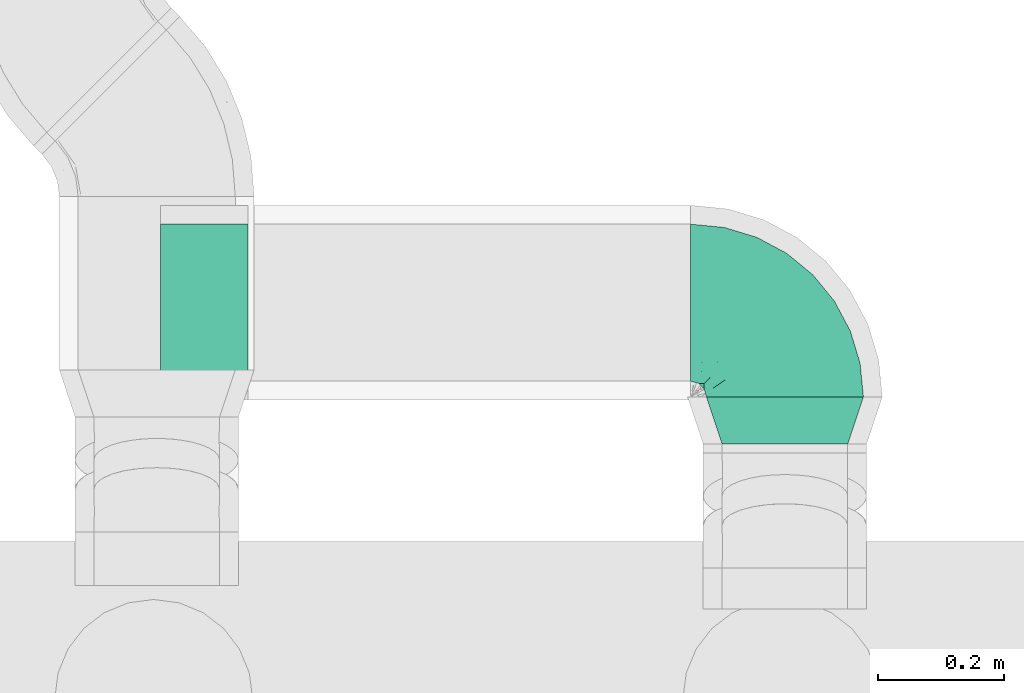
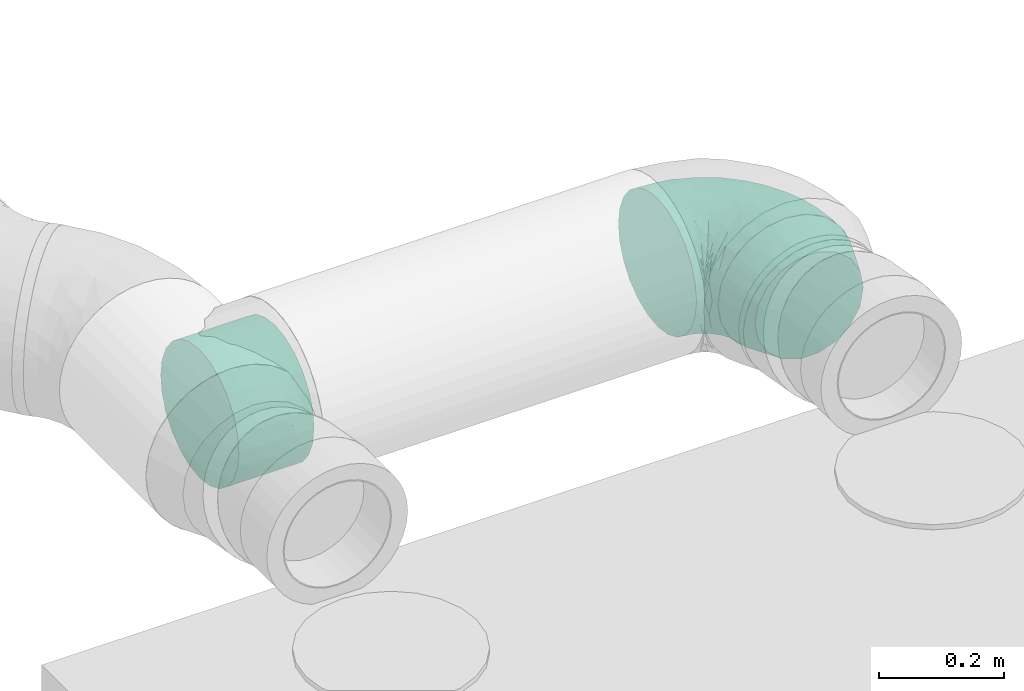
# One storey, part 18 of 21: 3 flow fittings.
"""IFC2X3 building model written with IfcOpenShell, lengths in millimetres."""

from ifc_helpers import new_model, entity, si_unit, converted_unit, derived_unit, direction, frame, origin_with_axes, place, context, subcontext, project, spatial, open_shell, surface_model, source, transform, mapped, type_object, element, save


model = new_model("IFC2X3")

# Units and contexts
model_context = context("Model", 3, precision=0.01, world=frame((0.0, 4.29681676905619e-09, 0.0)), true_north=direction((4.01073788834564e-13, 1.0)))
plan_context = context("Plan", 3, precision=0.01, world=frame((0.0, 4.29681676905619e-09, 0.0)), true_north=direction((4.01073788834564e-13, 1.0)))
body_context = subcontext(model_context, "Body", "Model", "MODEL_VIEW")
ifc_project = project(units=[converted_unit("PLANEANGLEUNIT", "DEGREE", entity("IfcPositiveLengthMeasure", 0.0174532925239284), si_unit("PLANEANGLEUNIT", "RADIAN"), dimensions=[0, 0, 0, 0, 0, 0, 0]), si_unit("AREAUNIT", "SQUARE_METRE"), si_unit("LENGTHUNIT", "METRE", prefix="MILLI"), si_unit("MASSUNIT", "GRAM", prefix="KILO"), si_unit("POWERUNIT", "WATT"), si_unit("PRESSUREUNIT", "PASCAL"), si_unit("FORCEUNIT", "NEWTON", prefix="KILO"), si_unit("ELECTRICVOLTAGEUNIT", "VOLT"), si_unit("ELECTRICCURRENTUNIT", "AMPERE"), si_unit("THERMODYNAMICTEMPERATUREUNIT", "DEGREE_CELSIUS"), si_unit("TIMEUNIT", "SECOND"), si_unit("VOLUMEUNIT", "CUBIC_METRE"), derived_unit("LINEARVELOCITYUNIT", [(si_unit("LENGTHUNIT", "METRE"), 1), (si_unit("TIMEUNIT", "SECOND"), -1)]), derived_unit("VOLUMETRICFLOWRATEUNIT", [(si_unit("VOLUMEUNIT", "CUBIC_METRE"), 1), (si_unit("TIMEUNIT", "SECOND"), -1)]), derived_unit("THERMALTRANSMITTANCEUNIT", [(si_unit("POWERUNIT", "WATT"), 1), (si_unit("THERMODYNAMICTEMPERATUREUNIT", "KELVIN"), -1), (si_unit("AREAUNIT", "SQUARE_METRE"), -1)]), derived_unit("SOUNDPRESSUREUNIT", [(si_unit("PRESSUREUNIT", "PASCAL"), 1)])], contexts=[model_context, plan_context])

# Site, building, storey
site_placement = place(None, frame((0.0, -4.29681676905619e-09, 0.0), z_axis=(0.0, 0.0, 1.0), x_axis=(1.0, 0.0, 0.0)))
site = spatial("IfcSite", under=ifc_project, at=site_placement, Name="ENGM", CompositionType="ELEMENT")
building_placement = place(site_placement, frame((0.0, 4.29681676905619e-09, 0.0), z_axis=(0.0, 0.0, 1.0), x_axis=(1.0, 0.0, 0.0)))
building = spatial("IfcBuilding", under=site, at=building_placement, Name="TI", CompositionType="ELEMENT")
storey_placement = place(building_placement, frame((0.0, 0.0, 210900.0), z_axis=(0.0, 0.0, 1.0), x_axis=(1.0, 0.0, 0.0)))
storey = spatial("IfcBuildingStorey", under=building, at=storey_placement, Name="Nivå F", CompositionType="ELEMENT", Elevation=210900.0)

# Flow fittings
duct_fitting_type_1 = type_object("IfcDuctFittingType", Name="magicirc_tapoutlet_001", PredefinedType="CONNECTOR")
shared_shape_1 = source(origin_with_axes(), body_context, "Body", "SurfaceModel", [
    surface_model("IfcShellBasedSurfaceModel", [(20.0, 0.0, -125.0), (20.0, 32.35238, -120.74073), (20.0, -32.35238, -120.74073), (20.0, -120.74073, 32.35238), (20.0, -62.5, -108.25318), (20.0, -88.38835, -88.38835), (20.0, -108.25318, -62.5), (20.0, 125.0, 0.0), (20.0, 120.74073, 32.35238), (20.0, 88.38835, -88.38835), (20.0, 62.5, -108.25318), (20.0, 120.74073, -32.35238), (20.0, 108.25318, -62.5), (20.0, -120.74073, -32.35238), (20.0, -108.25318, 62.5), (20.0, -62.5, 108.25318), (20.0, -32.35238, 120.74073), (20.0, -88.38835, 88.38835), (20.0, 0.0, 125.0), (20.0, 108.25318, 62.5), (20.0, 88.38835, 88.38835), (20.0, 32.35238, 120.74073), (20.0, 62.5, 108.25318), (20.0, -125.0, 0.0), (0.0, 0.0, 125.0), (0.0, -32.35238, 120.74073), (0.0, -88.38835, 88.38835), (0.0, -62.5, 108.25318), (0.0, -108.25318, 62.5), (0.0, -120.74073, 32.35238), (0.0, -125.0, 0.0), (0.0, -120.74073, -32.35238), (0.0, -88.38835, -88.38835), (0.0, -108.25318, -62.5), (0.0, 0.0, -125.0), (0.0, -32.35238, -120.74073), (0.0, -62.5, -108.25318), (0.0, 32.35238, -120.74073), (0.0, 88.38835, -88.38835), (0.0, 62.5, -108.25318), (0.0, 108.25318, -62.5), (0.0, 120.74073, -32.35238), (0.0, 125.0, 0.0), (0.0, 120.74073, 32.35238), (0.0, 88.38835, 88.38835), (0.0, 108.25318, 62.5), (0.0, 62.5, 108.25318), (0.0, 32.35238, 120.74073), (-118.904, -32.35238, -120.74073), (-118.904, -125.0, 0.0), (-118.904, 0.0, -125.0), (-118.904, -62.5, -108.25318), (-118.904, -88.38835, -88.38835), (-118.904, -108.25318, -62.5), (-118.904, 88.38835, -88.38835), (-118.904, 120.74073, 32.35238), (-118.904, 62.5, -108.25318), (-118.904, 32.35238, -120.74073), (-118.904, 108.25318, -62.5), (-118.904, 120.74073, -32.35238), (-118.904, 125.0, 0.0), (-118.904, -120.74073, -32.35238), (-118.904, -120.74073, 32.35238), (-118.904, -108.25318, 62.5), (-118.904, -62.5, 108.25318), (-118.904, -32.35238, 120.74073), (-118.904, -88.38835, 88.38835), (-118.904, 62.5, 108.25318), (-118.904, 108.25318, 62.5), (-118.904, 88.38835, 88.38835), (-118.904, 32.35238, 120.74073), (-118.904, 0.0, 125.0)], [open_shell([[[0, 1, 2]], [[2, 3, 4]], [[5, 3, 6]], [[4, 3, 5]], [[2, 7, 8]], [[9, 7, 10]], [[2, 1, 10]], [[11, 7, 12]], [[9, 12, 7]], [[10, 7, 2]], [[13, 6, 3]], [[14, 3, 2]], [[15, 14, 2]], [[15, 2, 16]], [[17, 14, 15]], [[18, 16, 2]], [[8, 19, 2]], [[19, 20, 2]], [[21, 18, 22]], [[20, 22, 18]], [[2, 20, 18]], [[23, 13, 3]], [[16, 18, 24]], [[15, 16, 25]], [[25, 16, 24]], [[26, 17, 27]], [[15, 25, 27]], [[15, 27, 17]], [[3, 14, 28]], [[23, 3, 29]], [[28, 14, 26]], [[3, 28, 29]], [[23, 29, 30]], [[17, 26, 14]], [[13, 23, 30]], [[6, 13, 31]], [[31, 13, 30]], [[32, 5, 33]], [[6, 31, 33]], [[6, 33, 5]], [[34, 0, 2]], [[35, 2, 4]], [[36, 4, 32]], [[2, 35, 34]], [[36, 35, 4]], [[5, 32, 4]], [[1, 0, 34]], [[10, 1, 37]], [[37, 1, 34]], [[38, 9, 39]], [[10, 37, 39]], [[10, 39, 9]], [[11, 12, 40]], [[7, 11, 41]], [[40, 12, 38]], [[11, 40, 41]], [[7, 41, 42]], [[9, 38, 12]], [[8, 7, 42]], [[19, 8, 43]], [[43, 8, 42]], [[44, 20, 45]], [[19, 43, 45]], [[19, 45, 20]], [[21, 22, 46]], [[18, 21, 47]], [[46, 22, 44]], [[21, 46, 47]], [[18, 47, 24]], [[20, 44, 22]], [[2, 17, 14]], [[15, 17, 2]], [[2, 20, 22]], [[18, 2, 22]], [[48, 49, 50]], [[51, 49, 48]], [[52, 53, 49]], [[52, 49, 51]], [[54, 50, 55]], [[50, 56, 57]], [[50, 54, 56]], [[58, 55, 59]], [[58, 54, 55]], [[55, 60, 59]], [[49, 53, 61]], [[62, 63, 50]], [[50, 63, 64]], [[65, 50, 64]], [[64, 63, 66]], [[50, 65, 67]], [[50, 68, 55]], [[69, 68, 50]], [[69, 50, 67]], [[65, 70, 67]], [[65, 71, 70]], [[49, 62, 50]], [[25, 24, 65]], [[27, 25, 64]], [[65, 24, 71]], [[64, 25, 65]], [[64, 66, 27]], [[66, 26, 27]], [[29, 28, 62]], [[30, 29, 49]], [[66, 63, 26]], [[63, 28, 26]], [[62, 28, 63]], [[62, 49, 29]], [[53, 33, 31]], [[49, 31, 30]], [[61, 31, 49]], [[33, 53, 52]], [[61, 53, 31]], [[52, 32, 33]], [[35, 36, 48]], [[34, 35, 50]], [[52, 51, 32]], [[51, 36, 32]], [[48, 36, 51]], [[48, 50, 35]], [[37, 34, 57]], [[39, 37, 56]], [[57, 34, 50]], [[56, 37, 57]], [[56, 54, 39]], [[54, 38, 39]], [[41, 40, 59]], [[42, 41, 60]], [[54, 58, 38]], [[58, 40, 38]], [[59, 40, 58]], [[59, 60, 41]], [[43, 42, 55]], [[45, 43, 68]], [[55, 42, 60]], [[68, 43, 55]], [[68, 69, 45]], [[69, 44, 45]], [[47, 46, 70]], [[24, 47, 71]], [[69, 67, 44]], [[67, 46, 44]], [[70, 46, 67]], [[70, 71, 47]], [[53, 49, 52]], [[56, 57, 50]], [[54, 55, 58]], [[61, 49, 53]], [[63, 50, 62]], [[63, 66, 50]], [[50, 66, 64]], [[50, 67, 69]], [[71, 70, 65]], [[50, 49, 62]]])]),
])
flow_fitting_1_placement = place(storey_placement, frame((609854.51365, 691192.49978, 2600.0), z_axis=(0.0, 0.0, -1.0), x_axis=(1.0, 0.0, 0.0)))
element("IfcFlowFitting", 1, at=flow_fitting_1_placement, inside=storey, type_object=duct_fitting_type_1, Name="magicirc_tapoutlet_001", context=body_context, shape_type="MappedRepresentation", body=[
    mapped(shared_shape_1, transform((0.0, 0.0, 0.0), scale=1.0)),
])
duct_fitting_type_2 = type_object("IfcDuctFittingType", Name="magicirc_elbow_short_001", PredefinedType="BEND")
shared_shape_2 = source(origin_with_axes(), body_context, "Body", "SurfaceModel", [
    surface_model("IfcShellBasedSurfaceModel", [(-150.0, 62.5, -108.25318), (-150.0, 32.35238, -120.74073), (-150.0, 88.38835, -88.38835), (-150.0, -62.5, -108.25318), (-150.0, -88.38835, -88.38835), (-150.0, -32.35238, -120.74073), (-150.0, -125.0, 0.0), (-150.0, -108.25318, -62.5), (-150.0, -120.74073, -32.35238), (-150.0, 120.74073, -32.35238), (-150.0, 0.0, -125.0), (-150.0, 108.25318, -62.5), (-150.0, 125.0, 0.0), (-150.0, -120.74073, 32.35238), (-150.0, 120.74073, 32.35238), (-150.0, 108.25318, 62.5), (-150.0, 32.35238, 120.74073), (-150.0, 62.5, 108.25318), (-150.0, 88.38835, 88.38835), (-150.0, -88.38835, 88.38835), (-150.0, -108.25318, 62.5), (-150.0, -32.35238, 120.74073), (-150.0, 0.0, 125.0), (-150.0, -62.5, 108.25318), (-32.35238, 150.0, -120.74073), (88.38835, 150.0, -88.38835), (0.0, 150.0, -125.0), (-88.38835, 150.0, -88.38835), (-62.5, 150.0, -108.25318), (-108.25318, 150.0, -62.5), (-120.74073, 150.0, -32.35238), (88.38835, 150.0, 88.38835), (32.35238, 150.0, -120.74073), (62.5, 150.0, -108.25318), (120.74073, 150.0, -32.35238), (108.25318, 150.0, -62.5), (125.0, 150.0, 0.0), (-125.0, 150.0, 0.0), (-120.74073, 150.0, 32.35238), (-32.35238, 150.0, 120.74073), (-108.25318, 150.0, 62.5), (-88.38835, 150.0, 88.38835), (-62.5, 150.0, 108.25318), (120.74073, 150.0, 32.35238), (108.25318, 150.0, 62.5), (62.5, 150.0, 108.25318), (0.0, 150.0, 125.0), (32.35238, 150.0, 120.74073), (3.43621, -49.5686, 72.62973), (-18.36868, -48.37229, 88.70337), (-18.83692, -66.65046, 70.44253), (-111.90441, -117.21345, 35.28889), (-118.95041, -121.94188, 0.0), (25.86906, 108.55436, 121.17479), (-75.7772, -90.32158, 72.9261), (-74.87608, -74.03385, 90.43438), (-106.18274, -83.07991, 89.59712), (-96.35016, -119.71595, 0.0), (-46.47779, 70.62109, 123.46212), (-76.11794, 76.11794, 116.41901), (-69.40624, 48.8823, 123.2752), (-124.4932, -102.85852, 69.13391), (61.55426, -23.61809, 0.0), (70.72079, -10.51336, 22.73937), (52.73629, -32.74631, 22.58023), (-124.77817, -54.06971, 111.94259), (-90.65624, -57.4337, 106.30719), (32.14495, -52.26832, 26.33949), (-0.28194, -75.27927, 33.26458), (23.61809, -61.55426, 0.0), (-95.68999, 131.65378, 83.88297), (-69.77814, 120.80048, 106.99559), (-67.0959, -108.40643, 29.86559), (-70.55611, -111.89141, 0.0), (-44.76206, -104.06687, 0.0), (-59.72745, 94.86231, 116.91683), (-108.55438, -25.86905, 121.17479), (54.06971, 124.77816, 111.94259), (-27.02672, -92.24399, 28.66038), (-115.00313, 7.3209, 124.96177), (37.68395, -37.68396, 47.97943), (-29.53309, 7.28525, 119.4722), (-3.39232, -9.52602, 105.74117), (0.96712, 29.12319, 117.22512), (-136.08989, 114.55349, 55.66419), (-123.43379, 95.73566, 87.17875), (-119.07435, 119.07435, 65.82439), (-129.09162, 129.09162, 33.48663), (-137.5, 128.34936, 0.0), (-121.4114, 69.81738, 106.84783), (-150.0, 47.42619, 114.49695), (-128.63564, 33.72653, 120.89263), (-27.58141, -83.17169, 52.68646), (-47.99632, -78.87458, 74.22581), (-54.84475, -96.13379, 51.52422), (103.28598, 90.85645, 59.18699), (90.74371, 74.5558, 71.84785), (96.43496, 48.91625, 45.66343), (-41.1276, 38.26732, 124.85571), (102.85852, 124.4932, 69.13391), (83.07991, 106.18274, 89.59712), (-94.00852, 107.9804, 96.05098), (74.96021, 76.43193, 90.06036), (117.21345, 111.90441, 35.28889), (121.94188, 118.95041, 0.0), (-47.30293, -61.16044, 91.82798), (78.87458, 47.99631, 74.22581), (76.94281, 15.76685, 52.00246), (-101.88517, 84.02177, 104.66367), (110.18665, 71.48082, 28.20521), (111.89141, 70.55611, 0.0), (55.40218, 7.25052, 74.8198), (24.63024, -24.60151, 78.91029), (58.21029, -16.89277, 44.41752), (57.4337, 90.65623, 106.30718), (30.02154, 57.30162, 113.4468), (-128.34936, 137.5, 0.0), (-73.97464, 6.61086, 124.39367), (-33.52256, 127.66016, 120.99202), (-7.19958, 114.11429, 124.96953), (-18.42999, 93.20127, 124.82066), (14.9991, 81.71173, 121.69074), (-109.70554, 132.7303, 65.99174), (-81.52168, -16.35182, 121.37252), (-56.488, -29.68334, 113.41267), (55.20354, 44.94313, 95.60044), (-90.85645, -103.28598, 59.18699), (-26.43187, -29.68413, 104.83883), (-7.20961, 68.77767, 124.18226), (30.67747, 15.69438, 99.90432), (-47.42619, 150.0, 114.49695), (-107.88822, 38.92177, 121.04182), (-96.15013, 61.71268, 115.9946), (-96.31285, 19.15333, 124.70605), (14.59493, -56.28029, 51.4962), (104.06687, 44.76206, 0.0), (102.01943, 45.4582, 23.12647), (89.00824, 19.09141, 24.82271), (119.71595, 96.35016, 0.0), (-20.99012, -91.36051, 0.0), (78.65415, -2.78181, 0.0), (91.36051, 20.99012, 0.0), (2.78181, -78.65415, 0.0), (44.45436, -44.45436, 0.0), (-38.84807, 105.96939, 121.23578), (-120.80048, 69.77814, -106.99559), (54.06971, 124.77816, -111.94259), (-90.65624, -57.4337, -106.30719), (-124.77817, -54.06971, -111.94259), (-108.55438, -25.86906, -121.17479), (-18.36869, -48.37229, -88.70338), (-18.83692, -66.65046, -70.44253), (-47.30293, -61.16045, -91.82798), (-96.31285, 19.15333, -124.70605), (-73.97463, 6.61086, -124.39367), (-115.00313, 7.3209, -124.96177), (14.9991, 81.71175, -121.69074), (25.86906, 108.55438, -121.17479), (30.02154, 57.30164, -113.44681), (-129.09162, 129.09162, -33.48663), (-95.73566, 123.43379, -87.17875), (-84.02176, 101.88516, -104.66368), (-107.9804, 94.00852, -96.05098), (-0.28194, -75.27927, -33.26458), (-131.65378, 95.68999, -83.88297), (-132.7303, 109.70554, -65.99174), (-107.88822, 38.92177, -121.04182), (-128.63564, 33.72653, -120.89263), (-119.07435, 119.07435, -65.82439), (-111.90441, -117.21345, -35.28889), (-48.07357, 68.7261, -123.44788), (-7.2096, 68.77766, -124.18226), (-41.12759, 38.26731, -124.85571), (-76.11794, 76.11793, -116.41901), (-69.69403, 48.67006, -123.27304), (-95.38125, 59.83873, -116.77822), (-106.18274, -83.07991, -89.59712), (-3.39231, -9.52602, -105.74117), (24.63023, -24.60151, -78.91029), (-54.84475, -96.13379, -51.52422), (-75.7772, -90.32158, -72.9261), (-47.99632, -78.87458, -74.22581), (-124.4932, -102.85852, -69.13391), (30.67749, 15.69438, -99.9043), (0.96713, 29.12319, -117.22511), (-69.81738, 121.4114, -106.84784), (-27.02672, -92.24399, -28.66038), (-67.0959, -108.40643, -29.86559), (78.87458, 47.99631, -74.22581), (96.43495, 48.9163, -45.66349), (76.94285, 15.76686, -52.00241), (37.68395, -37.68396, -47.97943), (58.21029, -16.89277, -44.41752), (52.73629, -32.74631, -22.58023), (-114.55349, 136.08989, -55.66419), (117.21345, 111.90441, -35.28889), (-7.19958, 114.11428, -124.96953), (-27.58141, -83.17169, -52.68646), (-47.42619, 150.0, -114.49695), (-33.52256, 127.66015, -120.99202), (32.14495, -52.26832, -26.33949), (14.59493, -56.28029, -51.4962), (83.07991, 106.18274, -89.59712), (102.85852, 124.4932, -69.13391), (89.00829, 19.0915, -24.82265), (70.72079, -10.51336, -22.73937), (57.4337, 90.65623, -106.30719), (110.18664, 71.4808, -28.20522), (102.0194, 45.45816, -23.12649), (-90.85645, -103.28598, -59.18699), (90.01217, 76.65037, -73.68876), (73.67235, 74.27652, -90.57836), (-29.53307, 7.28526, -119.4722), (-56.488, -29.68334, -113.41267), (-74.87608, -74.03385, -90.43438), (-81.52167, -16.35182, -121.37252), (-26.43187, -29.68413, -104.83883), (103.28598, 90.85645, -59.18699), (-18.42999, 93.20126, -124.82066), (-38.84807, 105.96939, -121.23578), (55.20355, 44.94317, -95.60045), (-150.0, 47.42619, -114.49695), (55.40223, 7.25057, -74.81978), (-61.71268, 96.15012, -115.9946), (3.43621, -49.56858, -72.62973)], [open_shell([[[0, 1, 2]], [[3, 4, 5]], [[6, 5, 4]], [[7, 8, 4]], [[6, 4, 8]], [[6, 9, 5]], [[10, 5, 1]], [[5, 11, 1]], [[2, 1, 11]], [[11, 5, 9]], [[6, 12, 9]], [[12, 13, 14]], [[15, 14, 16]], [[16, 17, 18]], [[15, 16, 18]], [[16, 14, 19]], [[20, 19, 13]], [[19, 14, 13]], [[21, 22, 23]], [[19, 23, 22]], [[19, 22, 16]], [[6, 13, 12]], [[24, 25, 26]], [[27, 24, 28]], [[29, 30, 24]], [[29, 24, 27]], [[24, 31, 25]], [[32, 25, 33]], [[32, 26, 25]], [[25, 34, 35]], [[34, 25, 36]], [[25, 31, 36]], [[24, 30, 37]], [[38, 31, 37]], [[39, 38, 40]], [[41, 42, 39]], [[41, 39, 40]], [[31, 38, 39]], [[43, 31, 44]], [[36, 31, 43]], [[45, 46, 47]], [[46, 45, 31]], [[39, 46, 31]], [[31, 24, 37]], [[48, 49, 50]], [[51, 13, 52]], [[53, 47, 46]], [[54, 55, 56]], [[52, 57, 51]], [[58, 59, 60]], [[20, 61, 19]], [[62, 63, 64]], [[65, 56, 66]], [[67, 68, 69]], [[41, 70, 71]], [[72, 73, 74]], [[59, 58, 75]], [[21, 76, 22]], [[77, 45, 47]], [[23, 19, 56]], [[72, 74, 78]], [[79, 16, 22]], [[76, 21, 65]], [[80, 67, 64]], [[81, 82, 83]], [[84, 85, 86]], [[87, 12, 14]], [[12, 87, 88]], [[18, 17, 89]], [[51, 20, 13]], [[18, 89, 85]], [[17, 90, 91]], [[84, 14, 15]], [[91, 90, 16]], [[92, 93, 94]], [[40, 70, 41]], [[95, 96, 97]], [[83, 98, 81]], [[44, 31, 99]], [[100, 31, 45]], [[86, 85, 101]], [[102, 96, 100]], [[103, 104, 43]], [[66, 55, 105]], [[77, 100, 45]], [[103, 43, 44]], [[97, 106, 107]], [[85, 15, 18]], [[108, 85, 89]], [[85, 84, 15]], [[103, 109, 110]], [[111, 112, 113]], [[114, 53, 115]], [[88, 87, 116]], [[60, 117, 98]], [[116, 87, 37]], [[85, 108, 101]], [[38, 37, 87]], [[71, 118, 42]], [[119, 120, 121]], [[122, 38, 87]], [[70, 122, 101]], [[123, 76, 124]], [[114, 115, 125]], [[119, 53, 46]], [[42, 41, 71]], [[77, 53, 114]], [[72, 78, 94]], [[54, 126, 94]], [[21, 23, 65]], [[124, 76, 66]], [[61, 56, 19]], [[76, 123, 79]], [[93, 105, 55]], [[124, 127, 81]], [[102, 100, 114]], [[99, 100, 95]], [[46, 39, 119]], [[115, 121, 128]], [[128, 83, 115]], [[115, 83, 129]], [[75, 101, 59]], [[118, 39, 130]], [[106, 111, 107]], [[125, 111, 106]], [[131, 89, 17]], [[108, 132, 59]], [[118, 119, 39]], [[119, 118, 120]], [[51, 57, 73]], [[61, 51, 126]], [[99, 103, 44]], [[109, 95, 97]], [[76, 79, 22]], [[133, 79, 117]], [[83, 128, 98]], [[129, 83, 82]], [[128, 120, 58]], [[59, 132, 60]], [[129, 82, 112]], [[125, 115, 129]], [[49, 112, 82]], [[80, 134, 67]], [[127, 49, 82]], [[93, 92, 50]], [[111, 125, 129]], [[125, 106, 102]], [[112, 111, 129]], [[111, 113, 107]], [[98, 117, 81]], [[124, 81, 117]], [[63, 113, 64]], [[135, 109, 136]], [[137, 97, 107]], [[97, 136, 109]], [[110, 138, 103]], [[103, 95, 109]], [[78, 74, 139]], [[73, 72, 51]], [[51, 72, 126]], [[68, 134, 50]], [[72, 94, 126]], [[92, 94, 78]], [[54, 94, 93]], [[63, 107, 113]], [[137, 140, 141]], [[68, 92, 78]], [[50, 49, 105]], [[78, 142, 68]], [[68, 142, 69]], [[67, 69, 143]], [[64, 67, 143]], [[68, 67, 134]], [[68, 50, 92]], [[48, 50, 134]], [[80, 48, 134]], [[112, 49, 48]], [[62, 140, 63]], [[80, 64, 113]], [[140, 137, 63]], [[107, 63, 137]], [[64, 143, 62]], [[113, 112, 80]], [[48, 80, 112]], [[55, 54, 93]], [[56, 126, 54]], [[93, 50, 105]], [[56, 55, 66]], [[127, 105, 49]], [[66, 105, 124]], [[132, 108, 89]], [[101, 108, 59]], [[89, 131, 132]], [[60, 98, 58]], [[132, 131, 60]], [[60, 131, 133]], [[128, 58, 98]], [[75, 58, 144]], [[144, 71, 75]], [[101, 75, 71]], [[122, 70, 40]], [[136, 141, 135]], [[71, 70, 101]], [[38, 122, 40]], [[101, 122, 86]], [[84, 87, 14]], [[122, 87, 86]], [[13, 6, 52]], [[104, 103, 138]], [[104, 36, 43]], [[87, 84, 86]], [[51, 61, 20]], [[56, 61, 126]], [[56, 65, 23]], [[76, 65, 66]], [[100, 99, 31]], [[103, 99, 95]], [[53, 77, 47]], [[100, 77, 114]], [[118, 71, 144]], [[120, 118, 144]], [[42, 118, 130]], [[79, 133, 91]], [[79, 91, 16]], [[17, 91, 131]], [[124, 117, 123]], [[79, 123, 117]], [[125, 102, 114]], [[96, 102, 106]], [[97, 96, 106]], [[100, 96, 95]], [[115, 53, 121]], [[119, 121, 53]], [[58, 120, 144]], [[121, 120, 128]], [[60, 133, 117]], [[91, 133, 131]], [[81, 127, 82]], [[105, 127, 124]], [[97, 137, 136]], [[141, 136, 137]], [[109, 135, 110]], [[139, 142, 78]], [[2, 145, 0]], [[32, 33, 146]], [[147, 148, 149]], [[150, 151, 152]], [[153, 154, 155]], [[156, 157, 158]], [[88, 159, 12]], [[160, 161, 162]], [[159, 9, 12]], [[142, 163, 69]], [[162, 164, 165]], [[0, 166, 167]], [[168, 160, 162]], [[159, 165, 9]], [[7, 169, 8]], [[170, 171, 172]], [[169, 52, 8]], [[173, 174, 175]], [[3, 148, 176]], [[177, 178, 150]], [[179, 180, 181]], [[149, 5, 10]], [[34, 36, 104]], [[7, 4, 182]], [[183, 177, 184]], [[161, 160, 185]], [[186, 74, 187]], [[4, 3, 176]], [[188, 189, 190]], [[191, 192, 193]], [[159, 88, 116]], [[155, 149, 10]], [[37, 30, 159]], [[174, 173, 170]], [[194, 30, 29]], [[195, 35, 34]], [[2, 164, 145]], [[194, 160, 168]], [[24, 26, 196]], [[148, 3, 5]], [[155, 10, 1]], [[157, 196, 26]], [[163, 186, 197]], [[198, 24, 199]], [[200, 163, 201]], [[185, 160, 27]], [[160, 29, 27]], [[202, 33, 25]], [[35, 203, 25]], [[190, 189, 204]], [[184, 172, 171]], [[205, 62, 193]], [[32, 146, 157]], [[202, 206, 146]], [[207, 135, 208]], [[187, 169, 209]], [[104, 138, 195]], [[34, 104, 195]], [[27, 28, 185]], [[186, 142, 139]], [[32, 157, 26]], [[202, 210, 211]], [[212, 184, 177]], [[147, 149, 213]], [[180, 214, 181]], [[37, 159, 116]], [[182, 176, 209]], [[11, 164, 2]], [[213, 215, 154]], [[212, 213, 154]], [[216, 177, 150]], [[203, 202, 25]], [[210, 202, 217]], [[158, 157, 206]], [[218, 219, 199]], [[206, 211, 220]], [[184, 171, 158]], [[175, 162, 173]], [[167, 1, 221]], [[183, 178, 177]], [[190, 192, 222]], [[185, 28, 199]], [[161, 223, 173]], [[196, 157, 156]], [[28, 198, 199]], [[182, 169, 7]], [[169, 73, 57]], [[195, 110, 207]], [[203, 195, 217]], [[1, 167, 155]], [[155, 154, 215]], [[183, 184, 158]], [[184, 212, 172]], [[154, 153, 174]], [[173, 223, 170]], [[158, 220, 183]], [[183, 220, 222]], [[178, 183, 222]], [[197, 181, 151]], [[151, 224, 201]], [[214, 152, 181]], [[206, 220, 158]], [[188, 190, 222]], [[188, 222, 220]], [[178, 222, 192]], [[212, 177, 216]], [[154, 172, 212]], [[210, 189, 188]], [[190, 204, 205]], [[207, 189, 217]], [[208, 141, 204]], [[217, 195, 207]], [[169, 187, 73]], [[74, 73, 187]], [[187, 179, 186]], [[179, 187, 209]], [[186, 179, 197]], [[180, 179, 209]], [[197, 179, 181]], [[208, 189, 207]], [[209, 176, 180]], [[181, 152, 151]], [[197, 151, 163]], [[69, 163, 200]], [[142, 186, 163]], [[69, 200, 143]], [[191, 200, 201]], [[193, 143, 200]], [[224, 151, 150]], [[163, 151, 201]], [[150, 178, 224]], [[191, 224, 178]], [[224, 191, 201]], [[178, 192, 191]], [[191, 193, 200]], [[193, 192, 205]], [[190, 205, 192]], [[204, 140, 205]], [[62, 205, 140]], [[62, 143, 193]], [[214, 176, 147]], [[176, 214, 180]], [[147, 213, 152]], [[147, 152, 214]], [[216, 152, 213]], [[223, 161, 185]], [[162, 161, 173]], [[185, 219, 223]], [[170, 172, 174]], [[223, 219, 170]], [[170, 219, 218]], [[154, 174, 172]], [[175, 166, 145]], [[166, 175, 174]], [[162, 175, 145]], [[165, 164, 11]], [[141, 140, 204]], [[145, 164, 162]], [[9, 165, 11]], [[162, 165, 168]], [[194, 159, 30]], [[165, 159, 168]], [[52, 169, 57]], [[52, 6, 8]], [[160, 194, 29]], [[159, 194, 168]], [[176, 182, 4]], [[169, 182, 209]], [[149, 148, 5]], [[176, 148, 147]], [[195, 203, 35]], [[202, 203, 217]], [[202, 146, 33]], [[157, 146, 206]], [[219, 185, 199]], [[24, 196, 199]], [[218, 199, 196]], [[166, 0, 145]], [[0, 167, 221]], [[167, 166, 153]], [[213, 149, 215]], [[155, 215, 149]], [[189, 210, 217]], [[211, 210, 188]], [[220, 211, 188]], [[202, 211, 206]], [[158, 171, 156]], [[156, 171, 218]], [[156, 218, 196]], [[170, 218, 171]], [[167, 153, 155]], [[174, 153, 166]], [[152, 216, 150]], [[212, 216, 213]], [[141, 208, 135]], [[204, 189, 208]], [[110, 195, 138]], [[110, 135, 207]], [[74, 186, 139]]])]),
])
flow_fitting_2_placement = place(storey_placement, frame((610729.51365, 691192.49978, 2600.0), z_axis=(0.0, 0.0, 1.0), x_axis=(0.0, 1.0, 0.0)))
element("IfcFlowFitting", 2, at=flow_fitting_2_placement, inside=storey, type_object=duct_fitting_type_2, Name="magicirc_elbow_short_001", context=body_context, shape_type="MappedRepresentation", body=[
    mapped(shared_shape_2, transform((0.0, 0.0, 0.0), scale=1.0)),
])
duct_fitting_type_3 = type_object("IfcDuctFittingType", Name="magicirc_reduction_001", PredefinedType="TRANSITION")
shared_shape_3 = source(origin_with_axes(), body_context, "Body", "SurfaceModel", [
    surface_model("IfcShellBasedSurfaceModel", [(75.0, -17.36482, 98.48077), (75.0, -100.0, 0.0), (75.0, 17.36482, 98.48077), (75.0, -50.0, 86.60254), (75.0, -76.60444, 64.27876), (75.0, 50.0, 86.60254), (75.0, 93.96926, -34.20201), (75.0, 93.96926, 34.20201), (75.0, 100.0, 0.0), (75.0, 76.60444, 64.27876), (75.0, -93.96926, 34.20201), (75.0, -17.36482, -98.48077), (75.0, -93.96926, -34.20201), (75.0, -76.60444, -64.27876), (75.0, -50.0, -86.60254), (75.0, 76.60444, -64.27876), (75.0, 50.0, -86.60254), (75.0, 17.36482, -98.48077), (0.0, -118.88206, -38.62713), (0.0, -38.62713, 118.88206), (0.0, 0.0, 125.0), (0.0, 125.0, 0.0), (0.0, 73.47315, 101.12712), (0.0, 101.12712, 73.47315), (0.0, 38.62713, 118.88206), (0.0, -101.12712, 73.47315), (0.0, -73.47315, 101.12712), (0.0, -118.88206, 38.62713), (0.0, -125.0, 0.0), (0.0, 118.88206, 38.62713), (0.0, -38.62713, -118.88206), (0.0, 118.88206, -38.62713), (0.0, 101.12712, -73.47315), (0.0, 73.47315, -101.12712), (0.0, 38.62713, -118.88206), (0.0, 0.0, -125.0), (0.0, -101.12712, -73.47315), (0.0, -73.47315, -101.12712)], [open_shell([[[0, 1, 2]], [[3, 4, 1]], [[1, 0, 3]], [[5, 2, 6]], [[7, 6, 8]], [[6, 9, 5]], [[9, 6, 7]], [[1, 4, 10]], [[11, 1, 12]], [[12, 13, 11]], [[14, 11, 13]], [[6, 1, 15]], [[16, 11, 17]], [[16, 15, 1]], [[11, 16, 1]], [[1, 6, 2]], [[18, 19, 20]], [[21, 22, 23]], [[20, 24, 21]], [[24, 22, 21]], [[18, 25, 26]], [[25, 18, 27]], [[18, 26, 19]], [[27, 18, 28]], [[21, 23, 29]], [[30, 21, 31]], [[32, 33, 34]], [[31, 32, 35]], [[34, 35, 32]], [[36, 18, 37]], [[21, 37, 18]], [[21, 30, 37]], [[31, 35, 30]], [[21, 18, 20]], [[8, 6, 31]], [[16, 17, 34]], [[15, 16, 33]], [[6, 15, 32]], [[21, 8, 31]], [[15, 33, 32]], [[32, 31, 6]], [[33, 16, 34]], [[17, 35, 34]], [[30, 11, 14]], [[12, 1, 18]], [[13, 12, 36]], [[37, 14, 13]], [[30, 35, 11]], [[37, 30, 14]], [[12, 18, 36]], [[36, 37, 13]], [[28, 18, 1]], [[11, 35, 17]], [[1, 10, 27]], [[3, 0, 19]], [[4, 3, 26]], [[10, 4, 25]], [[28, 1, 27]], [[4, 26, 25]], [[25, 27, 10]], [[26, 3, 19]], [[0, 20, 19]], [[24, 2, 5]], [[7, 8, 29]], [[9, 7, 23]], [[22, 5, 9]], [[24, 20, 2]], [[22, 24, 5]], [[7, 29, 23]], [[23, 22, 9]], [[21, 29, 8]], [[2, 20, 0]]])]),
])
flow_fitting_3_placement = place(storey_placement, frame((610729.51365, 691042.49978, 2600.0), z_axis=(0.0, 0.0, 1.0), x_axis=(0.0, -1.0, 0.0)))
element("IfcFlowFitting", 3, at=flow_fitting_3_placement, inside=storey, type_object=duct_fitting_type_3, Name="magicirc_reduction_001", context=body_context, shape_type="MappedRepresentation", body=[
    mapped(shared_shape_3, transform((0.0, 0.0, 0.0), scale=1.0)),
])

save(model, "model.ifc")
